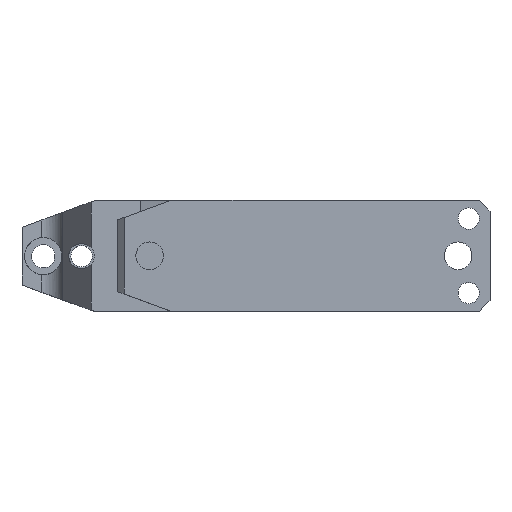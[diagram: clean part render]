
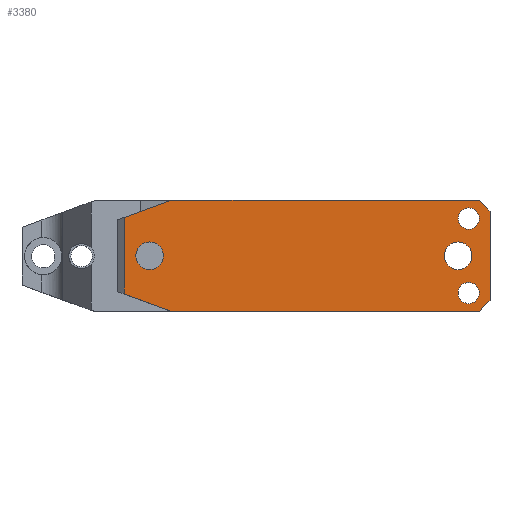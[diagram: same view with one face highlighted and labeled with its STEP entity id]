
A CAD part, top view. The second image highlights one B-rep face of the part: STEP entity #3380.
In plain terms, the highlighted planar face has unit normal (0, 0, 1).
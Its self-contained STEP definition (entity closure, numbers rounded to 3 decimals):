
#13 = FACE_BOUND ( 'NONE', #3305, .T. ) ;
#167 = VERTEX_POINT ( 'NONE', #10607 ) ;
#187 = AXIS2_PLACEMENT_3D ( 'NONE', #5923, #585, #6797 ) ;
#192 = ORIENTED_EDGE ( 'NONE', *, *, #4136, .F. ) ;
#293 = FACE_BOUND ( 'NONE', #5807, .T. ) ;
#387 = LINE ( 'NONE', #4018, #7204 ) ;
#415 = LINE ( 'NONE', #4060, #7233 ) ;
#577 = FACE_BOUND ( 'NONE', #9270, .T. ) ;
#585 = DIRECTION ( 'NONE',  ( 0., 0., -1. ) ) ;
#828 = VECTOR ( 'NONE', #2507, 1000. ) ;
#887 = CARTESIAN_POINT ( 'NONE',  ( 12., 17.993, 125. ) ) ;
#1022 = ORIENTED_EDGE ( 'NONE', *, *, #1792, .T. ) ;
#1123 = EDGE_LOOP ( 'NONE', ( #7291, #6800, #3681, #9152, #10167, #11185, #9324, #192 ) ) ;
#1225 = CIRCLE ( 'NONE', #11415, 6.5 ) ;
#1259 = ORIENTED_EDGE ( 'NONE', *, *, #5356, .T. ) ;
#1753 = DIRECTION ( 'NONE',  ( 1., 0., 0. ) ) ;
#1792 = EDGE_CURVE ( 'NONE', #3859, #3892, #1817, .T. ) ;
#1817 = CIRCLE ( 'NONE', #5910, 5. ) ;
#1826 = DIRECTION ( 'NONE',  ( 0., 0., -1. ) ) ;
#1954 = CARTESIAN_POINT ( 'NONE',  ( 169., 0., 125. ) ) ;
#2006 = CARTESIAN_POINT ( 'NONE',  ( 24., 0., 125. ) ) ;
#2266 = CARTESIAN_POINT ( 'NONE',  ( 174., -17.5, 125. ) ) ;
#2288 = DIRECTION ( 'NONE',  ( 0., 0., -1. ) ) ;
#2504 = CARTESIAN_POINT ( 'NONE',  ( 12., 26., 125. ) ) ;
#2507 = DIRECTION ( 'NONE',  ( 1., 0., 0. ) ) ;
#2697 = LINE ( 'NONE', #4263, #7728 ) ;
#2726 = CARTESIAN_POINT ( 'NONE',  ( 34., -26., 125. ) ) ;
#2791 = VERTEX_POINT ( 'NONE', #10795 ) ;
#2797 = ORIENTED_EDGE ( 'NONE', *, *, #7658, .T. ) ;
#2837 = DIRECTION ( 'NONE',  ( -1., 0., 0. ) ) ;
#2859 = EDGE_CURVE ( 'NONE', #5040, #11448, #5610, .T. ) ;
#2875 = DIRECTION ( 'NONE',  ( -1., 0., 0. ) ) ;
#2911 = DIRECTION ( 'NONE',  ( 0., -1., 0. ) ) ;
#3052 = ORIENTED_EDGE ( 'NONE', *, *, #11289, .T. ) ;
#3104 = DIRECTION ( 'NONE',  ( -1., 0., 0. ) ) ;
#3142 = DIRECTION ( 'NONE',  ( -1., 0., 0. ) ) ;
#3305 = EDGE_LOOP ( 'NONE', ( #4121, #2797 ) ) ;
#3380 = ADVANCED_FACE ( 'NONE', ( #293, #577, #4748, #13, #9186 ), #8396, .F. ) ;
#3386 = DIRECTION ( 'NONE',  ( 0., -1., 0. ) ) ;
#3490 = VECTOR ( 'NONE', #2911, 1000. ) ;
#3681 = ORIENTED_EDGE ( 'NONE', *, *, #5153, .F. ) ;
#3838 = CARTESIAN_POINT ( 'NONE',  ( 9., -16.901, 125. ) ) ;
#3859 = VERTEX_POINT ( 'NONE', #10132 ) ;
#3892 = VERTEX_POINT ( 'NONE', #3942 ) ;
#3942 = CARTESIAN_POINT ( 'NONE',  ( 179., 17.5, 125. ) ) ;
#3978 = EDGE_CURVE ( 'NONE', #11448, #10319, #415, .T. ) ;
#4018 = CARTESIAN_POINT ( 'NONE',  ( 9., 16.901, 125. ) ) ;
#4060 = CARTESIAN_POINT ( 'NONE',  ( 179., -26., 125. ) ) ;
#4121 = ORIENTED_EDGE ( 'NONE', *, *, #6873, .T. ) ;
#4136 = EDGE_CURVE ( 'NONE', #7977, #6909, #5567, .T. ) ;
#4181 = VERTEX_POINT ( 'NONE', #7961 ) ;
#4263 = CARTESIAN_POINT ( 'NONE',  ( 179., 26., 125. ) ) ;
#4322 = EDGE_CURVE ( 'NONE', #7488, #5280, #1225, .T. ) ;
#4546 = DIRECTION ( 'NONE',  ( 0., 0., -1. ) ) ;
#4632 = VERTEX_POINT ( 'NONE', #7472 ) ;
#4672 = AXIS2_PLACEMENT_3D ( 'NONE', #2266, #8477, #3142 ) ;
#4748 = FACE_BOUND ( 'NONE', #5986, .T. ) ;
#4776 = VECTOR ( 'NONE', #3386, 1000. ) ;
#4941 = DIRECTION ( 'NONE',  ( 0.94, 0.342, 0. ) ) ;
#5040 = VERTEX_POINT ( 'NONE', #10705 ) ;
#5128 = CIRCLE ( 'NONE', #8429, 6.5 ) ;
#5153 = EDGE_CURVE ( 'NONE', #9097, #6858, #7788, .T. ) ;
#5164 = DIRECTION ( 'NONE',  ( 0., 0., -1. ) ) ;
#5280 = VERTEX_POINT ( 'NONE', #7584 ) ;
#5356 = EDGE_CURVE ( 'NONE', #5280, #7488, #7637, .T. ) ;
#5566 = CARTESIAN_POINT ( 'NONE',  ( 184., -21., 125. ) ) ;
#5567 = LINE ( 'NONE', #10509, #828 ) ;
#5610 = LINE ( 'NONE', #9145, #3490 ) ;
#5807 = EDGE_LOOP ( 'NONE', ( #9392, #3052 ) ) ;
#5836 = CARTESIAN_POINT ( 'NONE',  ( 12., -17.993, 125. ) ) ;
#5910 = AXIS2_PLACEMENT_3D ( 'NONE', #9867, #4546, #10735 ) ;
#5923 = CARTESIAN_POINT ( 'NONE',  ( 24., 0., 125. ) ) ;
#5986 = EDGE_LOOP ( 'NONE', ( #9780, #1259 ) ) ;
#6080 = ORIENTED_EDGE ( 'NONE', *, *, #8565, .T. ) ;
#6767 = CARTESIAN_POINT ( 'NONE',  ( 179., 26., 125. ) ) ;
#6797 = DIRECTION ( 'NONE',  ( -1., 0., 0. ) ) ;
#6800 = ORIENTED_EDGE ( 'NONE', *, *, #10551, .T. ) ;
#6851 = EDGE_CURVE ( 'NONE', #7112, #7977, #387, .T. ) ;
#6858 = VERTEX_POINT ( 'NONE', #5836 ) ;
#6873 = EDGE_CURVE ( 'NONE', #4181, #2791, #5128, .T. ) ;
#6909 = VERTEX_POINT ( 'NONE', #6767 ) ;
#6986 = CIRCLE ( 'NONE', #7417, 5. ) ;
#7067 = CARTESIAN_POINT ( 'NONE',  ( 9., -26., 125. ) ) ;
#7112 = VERTEX_POINT ( 'NONE', #887 ) ;
#7161 = CARTESIAN_POINT ( 'NONE',  ( 174., -17.5, 125. ) ) ;
#7204 = VECTOR ( 'NONE', #4941, 1000. ) ;
#7233 = VECTOR ( 'NONE', #7611, 1000. ) ;
#7291 = ORIENTED_EDGE ( 'NONE', *, *, #6851, .F. ) ;
#7417 = AXIS2_PLACEMENT_3D ( 'NONE', #7161, #1826, #8050 ) ;
#7472 = CARTESIAN_POINT ( 'NONE',  ( 179., -17.5, 125. ) ) ;
#7488 = VERTEX_POINT ( 'NONE', #10561 ) ;
#7548 = CARTESIAN_POINT ( 'NONE',  ( 9., 26., 125. ) ) ;
#7584 = CARTESIAN_POINT ( 'NONE',  ( 30.5, 0., 125. ) ) ;
#7611 = DIRECTION ( 'NONE',  ( -0.707, -0.707, 0. ) ) ;
#7613 = CARTESIAN_POINT ( 'NONE',  ( 169., 0., 125. ) ) ;
#7637 = CIRCLE ( 'NONE', #187, 6.5 ) ;
#7658 = EDGE_CURVE ( 'NONE', #2791, #4181, #10916, .T. ) ;
#7715 = VECTOR ( 'NONE', #1753, 1000. ) ;
#7728 = VECTOR ( 'NONE', #10485, 1000. ) ;
#7788 = LINE ( 'NONE', #3838, #9868 ) ;
#7961 = CARTESIAN_POINT ( 'NONE',  ( 162.5, 0., 125. ) ) ;
#7977 = VERTEX_POINT ( 'NONE', #8578 ) ;
#8050 = DIRECTION ( 'NONE',  ( -1., 0., 0. ) ) ;
#8171 = DIRECTION ( 'NONE',  ( 0., 0., -1. ) ) ;
#8216 = DIRECTION ( 'NONE',  ( 0., 0., -1. ) ) ;
#8396 = PLANE ( 'NONE',  #9935 ) ;
#8429 = AXIS2_PLACEMENT_3D ( 'NONE', #7613, #2288, #8505 ) ;
#8436 = DIRECTION ( 'NONE',  ( 0., 0., -1. ) ) ;
#8477 = DIRECTION ( 'NONE',  ( 0., 0., -1. ) ) ;
#8505 = DIRECTION ( 'NONE',  ( -1., 0., 0. ) ) ;
#8565 = EDGE_CURVE ( 'NONE', #3892, #3859, #10620, .T. ) ;
#8578 = CARTESIAN_POINT ( 'NONE',  ( 34., 26., 125. ) ) ;
#9097 = VERTEX_POINT ( 'NONE', #2726 ) ;
#9145 = CARTESIAN_POINT ( 'NONE',  ( 184., 26., 125. ) ) ;
#9152 = ORIENTED_EDGE ( 'NONE', *, *, #10023, .T. ) ;
#9186 = FACE_OUTER_BOUND ( 'NONE', #1123, .T. ) ;
#9270 = EDGE_LOOP ( 'NONE', ( #1022, #6080 ) ) ;
#9324 = ORIENTED_EDGE ( 'NONE', *, *, #9580, .F. ) ;
#9392 = ORIENTED_EDGE ( 'NONE', *, *, #10977, .T. ) ;
#9503 = LINE ( 'NONE', #2504, #4776 ) ;
#9580 = EDGE_CURVE ( 'NONE', #6909, #5040, #2697, .T. ) ;
#9780 = ORIENTED_EDGE ( 'NONE', *, *, #4322, .T. ) ;
#9794 = LINE ( 'NONE', #7067, #7715 ) ;
#9867 = CARTESIAN_POINT ( 'NONE',  ( 174., 17.5, 125. ) ) ;
#9868 = VECTOR ( 'NONE', #10072, 1000. ) ;
#9935 = AXIS2_PLACEMENT_3D ( 'NONE', #7548, #8436, #3104 ) ;
#10023 = EDGE_CURVE ( 'NONE', #9097, #10319, #9794, .T. ) ;
#10047 = CIRCLE ( 'NONE', #4672, 5. ) ;
#10072 = DIRECTION ( 'NONE',  ( -0.94, 0.342, 0. ) ) ;
#10132 = CARTESIAN_POINT ( 'NONE',  ( 169., 17.5, 125. ) ) ;
#10146 = AXIS2_PLACEMENT_3D ( 'NONE', #1954, #8171, #2837 ) ;
#10167 = ORIENTED_EDGE ( 'NONE', *, *, #3978, .F. ) ;
#10319 = VERTEX_POINT ( 'NONE', #10953 ) ;
#10437 = AXIS2_PLACEMENT_3D ( 'NONE', #10466, #5164, #11364 ) ;
#10466 = CARTESIAN_POINT ( 'NONE',  ( 174., 17.5, 125. ) ) ;
#10485 = DIRECTION ( 'NONE',  ( 0.707, -0.707, 0. ) ) ;
#10509 = CARTESIAN_POINT ( 'NONE',  ( 9., 26., 125. ) ) ;
#10551 = EDGE_CURVE ( 'NONE', #7112, #6858, #9503, .T. ) ;
#10561 = CARTESIAN_POINT ( 'NONE',  ( 17.5, 0., 125. ) ) ;
#10607 = CARTESIAN_POINT ( 'NONE',  ( 169., -17.5, 125. ) ) ;
#10620 = CIRCLE ( 'NONE', #10437, 5. ) ;
#10705 = CARTESIAN_POINT ( 'NONE',  ( 184., 21., 125. ) ) ;
#10735 = DIRECTION ( 'NONE',  ( -1., 0., 0. ) ) ;
#10795 = CARTESIAN_POINT ( 'NONE',  ( 175.5, 0., 125. ) ) ;
#10916 = CIRCLE ( 'NONE', #10146, 6.5 ) ;
#10953 = CARTESIAN_POINT ( 'NONE',  ( 179., -26., 125. ) ) ;
#10977 = EDGE_CURVE ( 'NONE', #167, #4632, #10047, .T. ) ;
#11185 = ORIENTED_EDGE ( 'NONE', *, *, #2859, .F. ) ;
#11289 = EDGE_CURVE ( 'NONE', #4632, #167, #6986, .T. ) ;
#11364 = DIRECTION ( 'NONE',  ( -1., 0., 0. ) ) ;
#11415 = AXIS2_PLACEMENT_3D ( 'NONE', #2006, #8216, #2875 ) ;
#11448 = VERTEX_POINT ( 'NONE', #5566 ) ;
